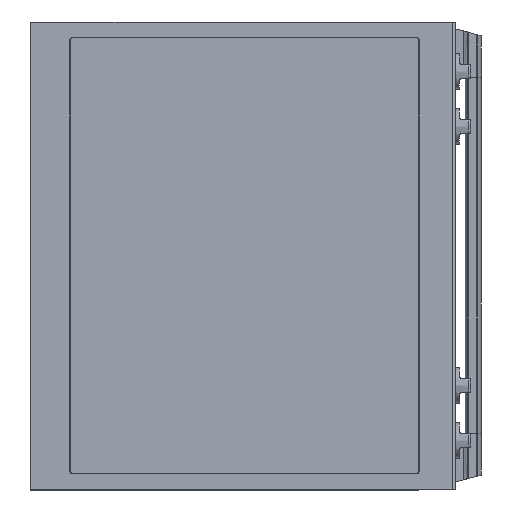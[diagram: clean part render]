
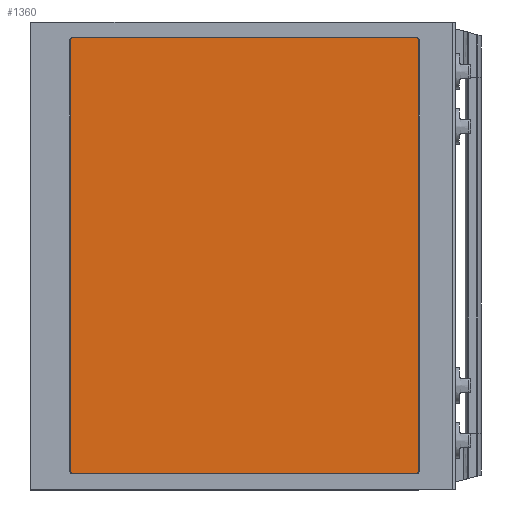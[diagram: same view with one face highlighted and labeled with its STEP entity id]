
A CAD part, top view. The second image highlights one B-rep face of the part: STEP entity #1360.
In plain terms, the highlighted free-form (B-spline) face has degree [1, 1] with [2, 2] control points.
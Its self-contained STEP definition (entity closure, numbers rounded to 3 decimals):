
#1360=ADVANCED_FACE('',(#1942),#7611,.T.);
#1942=FACE_OUTER_BOUND('',#2525,.T.);
#2525=EDGE_LOOP('',(#3948,#3949,#3950,#3951,#3952,#3953,#3954,#3955));
#3948=ORIENTED_EDGE('',*,*,#5852,.T.);
#3949=ORIENTED_EDGE('',*,*,#5855,.T.);
#3950=ORIENTED_EDGE('',*,*,#5858,.T.);
#3951=ORIENTED_EDGE('',*,*,#5861,.T.);
#3952=ORIENTED_EDGE('',*,*,#5864,.T.);
#3953=ORIENTED_EDGE('',*,*,#5867,.T.);
#3954=ORIENTED_EDGE('',*,*,#5869,.T.);
#3955=ORIENTED_EDGE('',*,*,#5848,.T.);
#5848=EDGE_CURVE('',#6906,#6905,#8300,.T.);
#5852=EDGE_CURVE('',#6905,#6908,#8304,.T.);
#5855=EDGE_CURVE('',#6908,#6910,#8307,.T.);
#5858=EDGE_CURVE('',#6910,#6912,#8310,.T.);
#5861=EDGE_CURVE('',#6912,#6914,#8313,.T.);
#5864=EDGE_CURVE('',#6914,#6916,#8316,.T.);
#5867=EDGE_CURVE('',#6916,#6918,#8319,.T.);
#5869=EDGE_CURVE('',#6918,#6906,#8321,.T.);
#6905=VERTEX_POINT('',#16404);
#6906=VERTEX_POINT('',#16405);
#6908=VERTEX_POINT('',#16407);
#6910=VERTEX_POINT('',#16409);
#6912=VERTEX_POINT('',#16411);
#6914=VERTEX_POINT('',#16413);
#6916=VERTEX_POINT('',#16415);
#6918=VERTEX_POINT('',#16417);
#7611=B_SPLINE_SURFACE_WITH_KNOTS('',1,1,((#16394,#16395),(#16396,#16397)),
.UNSPECIFIED.,.F.,.F.,.F.,(2,2),(2,2),(0.352,0.648),
(0.314,0.69),.UNSPECIFIED.);
#8300=B_SPLINE_CURVE_WITH_KNOTS('',3,(#16280,#16281,#16282,#16283),.UNSPECIFIED.,
.F.,.F.,(4,4),(0.,1.),.UNSPECIFIED.);
#8304=B_SPLINE_CURVE_WITH_KNOTS('',1,(#16290,#16291),.UNSPECIFIED.,.F.,.F.,
(2,2),(0.,1.),.UNSPECIFIED.);
#8307=B_SPLINE_CURVE_WITH_KNOTS('',3,(#16298,#16299,#16300,#16301),.UNSPECIFIED.,
.F.,.F.,(4,4),(0.,1.),.UNSPECIFIED.);
#8310=B_SPLINE_CURVE_WITH_KNOTS('',1,(#16306,#16307),.UNSPECIFIED.,.F.,.F.,
(2,2),(0.,1.),.UNSPECIFIED.);
#8313=B_SPLINE_CURVE_WITH_KNOTS('',3,(#16314,#16315,#16316,#16317),.UNSPECIFIED.,
.F.,.F.,(4,4),(0.,1.),.UNSPECIFIED.);
#8316=B_SPLINE_CURVE_WITH_KNOTS('',3,(#16324,#16325,#16326,#16327),.UNSPECIFIED.,
.F.,.F.,(4,4),(0.,1.),.UNSPECIFIED.);
#8319=B_SPLINE_CURVE_WITH_KNOTS('',3,(#16334,#16335,#16336,#16337),.UNSPECIFIED.,
.F.,.F.,(4,4),(0.,1.),.UNSPECIFIED.);
#8321=B_SPLINE_CURVE_WITH_KNOTS('',1,(#16340,#16341),.UNSPECIFIED.,.F.,.F.,
(2,2),(0.,1.),.UNSPECIFIED.);
#16280=CARTESIAN_POINT('',(-60.471,351.944,900.373));
#16281=CARTESIAN_POINT('',(-60.471,353.599,900.373));
#16282=CARTESIAN_POINT('',(-61.816,354.944,900.373));
#16283=CARTESIAN_POINT('',(-63.471,354.944,900.373));
#16290=CARTESIAN_POINT('',(-63.471,354.944,900.373));
#16291=CARTESIAN_POINT('',(-624.148,354.944,900.373));
#16298=CARTESIAN_POINT('',(-624.148,354.944,900.373));
#16299=CARTESIAN_POINT('',(-625.803,354.944,900.373));
#16300=CARTESIAN_POINT('',(-627.148,353.599,900.373));
#16301=CARTESIAN_POINT('',(-627.148,351.944,900.373));
#16306=CARTESIAN_POINT('',(-627.148,351.944,900.373));
#16307=CARTESIAN_POINT('',(-627.148,-352.703,900.373));
#16314=CARTESIAN_POINT('',(-627.148,-352.703,900.373));
#16315=CARTESIAN_POINT('',(-627.148,-354.358,900.373));
#16316=CARTESIAN_POINT('',(-625.803,-355.703,900.373));
#16317=CARTESIAN_POINT('',(-624.148,-355.703,900.373));
#16324=CARTESIAN_POINT('',(-624.148,-355.703,900.373));
#16325=CARTESIAN_POINT('',(-437.959,-355.703,900.373));
#16326=CARTESIAN_POINT('',(-249.66,-355.703,900.373));
#16327=CARTESIAN_POINT('',(-63.471,-355.703,900.373));
#16334=CARTESIAN_POINT('',(-63.471,-355.703,900.373));
#16335=CARTESIAN_POINT('',(-61.816,-355.703,900.373));
#16336=CARTESIAN_POINT('',(-60.471,-354.358,900.373));
#16337=CARTESIAN_POINT('',(-60.471,-352.703,900.373));
#16340=CARTESIAN_POINT('',(-60.471,-352.703,900.373));
#16341=CARTESIAN_POINT('',(-60.471,351.944,900.373));
#16394=CARTESIAN_POINT('',(-60.471,354.944,900.373));
#16395=CARTESIAN_POINT('',(-60.471,-362.809,900.373));
#16396=CARTESIAN_POINT('',(-627.148,354.944,900.373));
#16397=CARTESIAN_POINT('',(-627.148,-362.809,900.373));
#16404=CARTESIAN_POINT('',(-63.471,354.944,900.373));
#16405=CARTESIAN_POINT('',(-60.471,351.944,900.373));
#16407=CARTESIAN_POINT('',(-624.148,354.944,900.373));
#16409=CARTESIAN_POINT('',(-627.148,351.944,900.373));
#16411=CARTESIAN_POINT('',(-627.148,-352.703,900.373));
#16413=CARTESIAN_POINT('',(-624.148,-355.703,900.373));
#16415=CARTESIAN_POINT('',(-63.471,-355.703,900.373));
#16417=CARTESIAN_POINT('',(-60.471,-352.703,900.373));
